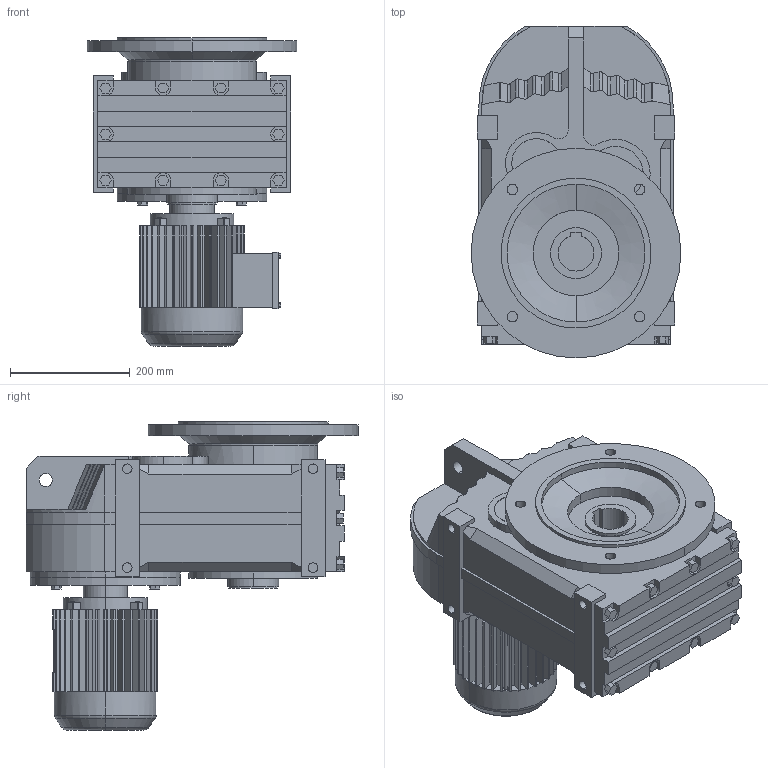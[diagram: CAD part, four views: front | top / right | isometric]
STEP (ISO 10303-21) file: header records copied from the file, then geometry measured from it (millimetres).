
FILE_DESCRIPTION(('Open CASCADE Model'),'2;1');
FILE_NAME('Open CASCADE Shape Model','2021-07-20T10:11:39',('Author'),( 'Open CASCADE'),'Open CASCADE STEP processor 6.3','Open CASCADE 6.3' ,'Unknown');
FILE_SCHEMA(('AUTOMOTIVE_DESIGN_CC2 { 1 2 10303 214 -1 1 5 4 }'));
Length unit declared in the file: millimetre
Products named in the file (5): 1_FAF87-Y80M; FA27‵157_87.step; 萇儂_250_Y80M.step; す瑩諾陑粣F_87.step; 楊擘F_87.step
Assembly tree (4 placements, depth 2):
  1_FAF87-Y80M
    FA27‵157_87.step
    萇儂_250_Y80M.step
    す瑩諾陑粣F_87.step
    楊擘F_87.step
Bounding box: 350 x 554 x 514 mm (x, y, z)
Volume: 35875100.9 mm3; surface area: 1526692.6 mm2
Topology: 4 solids, 4 shells, 805 faces, 2117 edges, 1376 vertices
Faces by surface type: plane 569, cylinder 210, bspline 16, cone 6, torus 4
Entity records: 54052 total; most frequent: CARTESIAN_POINT 13431, DIRECTION 7099, ORIENTED_EDGE 4234, PCURVE 4234, DEFINITIONAL_REPRESENTATION 4234, LINE 3949, VECTOR 3949, EDGE_CURVE 2117
